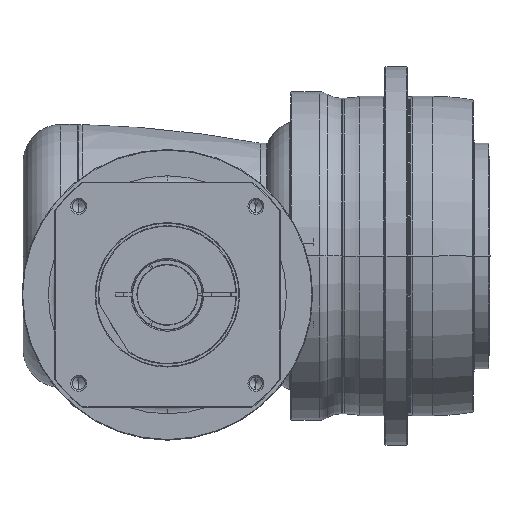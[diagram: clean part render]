
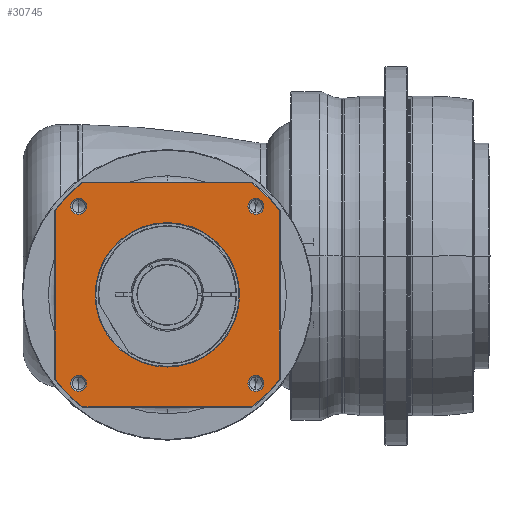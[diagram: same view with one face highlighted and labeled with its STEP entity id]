
A CAD part, front view. The second image highlights one B-rep face of the part: STEP entity #30745.
In plain terms, the highlighted planar face has unit normal (0, -1, 0) as drawn and (0, 0, 1) by its records, which use the part's own axes.
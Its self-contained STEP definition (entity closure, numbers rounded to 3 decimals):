
#29473=DIRECTION('',(1.,0.,0.));
#29474=VECTOR('',#29473,134.666);
#29475=CARTESIAN_POINT('',(-67.333,-89.5,54.));
#29476=LINE('',#29475,#29474);
#29486=CARTESIAN_POINT('',(0.,0.,54.));
#29487=DIRECTION('',(0.,0.,-1.));
#29488=DIRECTION('',(0.,-1.,0.));
#29489=AXIS2_PLACEMENT_3D('',#29486,#29487,#29488);
#29491=CARTESIAN_POINT('',(0.,0.,
54.));
#29492=DIRECTION('',(0.,0.,-1.));
#29493=DIRECTION('',(0.,1.,0.));
#29494=AXIS2_PLACEMENT_3D('',#29491,#29492,#29493);
#29496=CARTESIAN_POINT('',(0.,0.,54.));
#29497=DIRECTION('',(0.,0.,1.));
#29498=DIRECTION('',(-0.799,-0.601,0.));
#29499=AXIS2_PLACEMENT_3D('',#29496,#29497,#29498);
#29511=DIRECTION('',(0.,-1.,0.));
#29512=VECTOR('',#29511,134.666);
#29513=CARTESIAN_POINT('',(-89.5,67.333,54.));
#29514=LINE('',#29513,#29512);
#29524=CARTESIAN_POINT('',(0.,0.,54.));
#29525=DIRECTION('',(0.,0.,1.));
#29526=DIRECTION('',(-0.601,0.799,0.));
#29527=AXIS2_PLACEMENT_3D('',#29524,#29525,#29526);
#29552=DIRECTION('',(-1.,0.,0.));
#29553=VECTOR('',#29552,134.666);
#29554=CARTESIAN_POINT('',(67.333,89.5,54.));
#29555=LINE('',#29554,#29553);
#29560=CARTESIAN_POINT('',(0.,0.,54.));
#29561=DIRECTION('',(0.,0.,1.));
#29562=DIRECTION('',(0.799,0.601,0.));
#29563=AXIS2_PLACEMENT_3D('',#29560,#29561,#29562);
#29575=DIRECTION('',(0.,1.,0.));
#29576=VECTOR('',#29575,134.666);
#29577=CARTESIAN_POINT('',(89.5,-67.333,54.));
#29578=LINE('',#29577,#29576);
#29680=CARTESIAN_POINT('',(0.,0.,54.));
#29681=DIRECTION('',(0.,0.,1.));
#29682=DIRECTION('',(0.601,-0.799,0.));
#29683=AXIS2_PLACEMENT_3D('',#29680,#29681,#29682);
#29962=CARTESIAN_POINT('',(-70.711,70.711,54.));
#29963=DIRECTION('',(0.,0.,1.));
#29964=DIRECTION('',(-1.,0.,0.));
#29965=AXIS2_PLACEMENT_3D('',#29962,#29963,#29964);
#29980=CARTESIAN_POINT('',(-70.711,70.711,54.));
#29981=DIRECTION('',(0.,0.,1.));
#29982=DIRECTION('',(1.,0.,0.));
#29983=AXIS2_PLACEMENT_3D('',#29980,#29981,#29982);
#30016=CARTESIAN_POINT('',(70.711,70.711,54.));
#30017=DIRECTION('',(0.,0.,1.));
#30018=DIRECTION('',(-1.,0.,0.));
#30019=AXIS2_PLACEMENT_3D('',#30016,#30017,#30018);
#30034=CARTESIAN_POINT('',(70.711,70.711,54.));
#30035=DIRECTION('',(0.,0.,1.));
#30036=DIRECTION('',(1.,0.,0.));
#30037=AXIS2_PLACEMENT_3D('',#30034,#30035,#30036);
#30070=CARTESIAN_POINT('',(70.711,-70.711,54.));
#30071=DIRECTION('',(0.,0.,1.));
#30072=DIRECTION('',(-1.,0.,0.));
#30073=AXIS2_PLACEMENT_3D('',#30070,#30071,#30072);
#30088=CARTESIAN_POINT('',(70.711,-70.711,54.));
#30089=DIRECTION('',(0.,0.,1.));
#30090=DIRECTION('',(1.,0.,0.));
#30091=AXIS2_PLACEMENT_3D('',#30088,#30089,#30090);
#30124=CARTESIAN_POINT('',(-70.711,-70.711,54.));
#30125=DIRECTION('',(0.,0.,1.));
#30126=DIRECTION('',(-1.,0.,0.));
#30127=AXIS2_PLACEMENT_3D('',#30124,#30125,#30126);
#30142=CARTESIAN_POINT('',(-70.711,-70.711,54.));
#30143=DIRECTION('',(0.,0.,1.));
#30144=DIRECTION('',(1.,0.,0.));
#30145=AXIS2_PLACEMENT_3D('',#30142,#30143,#30144);
#30186=CARTESIAN_POINT('',(89.5,-67.333,54.));
#30187=CARTESIAN_POINT('',(89.5,67.333,54.));
#30188=VERTEX_POINT('',#30186);
#30189=VERTEX_POINT('',#30187);
#30194=CARTESIAN_POINT('',(67.333,-89.5,54.));
#30195=VERTEX_POINT('',#30194);
#30198=CARTESIAN_POINT('',(-67.333,-89.5,54.));
#30199=VERTEX_POINT('',#30198);
#30202=CARTESIAN_POINT('',(-89.5,-67.333,54.));
#30203=VERTEX_POINT('',#30202);
#30206=CARTESIAN_POINT('',(-89.5,67.333,54.));
#30207=VERTEX_POINT('',#30206);
#30210=CARTESIAN_POINT('',(-67.333,89.5,54.));
#30211=VERTEX_POINT('',#30210);
#30214=CARTESIAN_POINT('',(67.333,89.5,54.));
#30215=VERTEX_POINT('',#30214);
#30264=CARTESIAN_POINT('',(-77.111,70.711,54.));
#30265=CARTESIAN_POINT('',(-64.311,70.711,54.));
#30266=VERTEX_POINT('',#30264);
#30267=VERTEX_POINT('',#30265);
#30298=CARTESIAN_POINT('',(77.111,70.711,54.));
#30299=CARTESIAN_POINT('',(64.311,70.711,54.));
#30300=VERTEX_POINT('',#30298);
#30301=VERTEX_POINT('',#30299);
#30306=CARTESIAN_POINT('',(77.111,-70.711,54.));
#30307=CARTESIAN_POINT('',(64.311,-70.711,54.));
#30308=VERTEX_POINT('',#30306);
#30309=VERTEX_POINT('',#30307);
#30314=CARTESIAN_POINT('',(-64.311,-70.711,54.));
#30315=CARTESIAN_POINT('',(-77.111,-70.711,54.));
#30316=VERTEX_POINT('',#30314);
#30317=VERTEX_POINT('',#30315);
#30322=CARTESIAN_POINT('',(0.,-57.65,54.));
#30323=CARTESIAN_POINT('',(0.,57.65,54.));
#30324=VERTEX_POINT('',#30322);
#30325=VERTEX_POINT('',#30323);
#30693=CARTESIAN_POINT('',(0.,0.,54.));
#30694=DIRECTION('',(0.,0.,1.));
#30695=DIRECTION('',(1.,0.,0.));
#30696=AXIS2_PLACEMENT_3D('',#30693,#30694,#30695);
#30697=PLANE('',#30696);
#30699=ORIENTED_EDGE('',*,*,#30698,.F.);
#30701=ORIENTED_EDGE('',*,*,#30700,.F.);
#30703=ORIENTED_EDGE('',*,*,#30702,.F.);
#30705=ORIENTED_EDGE('',*,*,#30704,.F.);
#30707=ORIENTED_EDGE('',*,*,#30706,.F.);
#30709=ORIENTED_EDGE('',*,*,#30708,.F.);
#30711=ORIENTED_EDGE('',*,*,#30710,.F.);
#30712=ORIENTED_EDGE('',*,*,#30683,.F.);
#30713=EDGE_LOOP('',(#30699,#30701,#30703,#30705,#30707,#30709,#30711,#30712));
#30714=FACE_OUTER_BOUND('',#30713,.F.);
#30716=ORIENTED_EDGE('',*,*,#30715,.F.);
#30718=ORIENTED_EDGE('',*,*,#30717,.F.);
#30719=EDGE_LOOP('',(#30716,#30718));
#30720=FACE_BOUND('',#30719,.F.);
#30722=ORIENTED_EDGE('',*,*,#30721,.T.);
#30724=ORIENTED_EDGE('',*,*,#30723,.T.);
#30725=EDGE_LOOP('',(#30722,#30724));
#30726=FACE_BOUND('',#30725,.F.);
#30728=ORIENTED_EDGE('',*,*,#30727,.T.);
#30730=ORIENTED_EDGE('',*,*,#30729,.T.);
#30731=EDGE_LOOP('',(#30728,#30730));
#30732=FACE_BOUND('',#30731,.F.);
#30734=ORIENTED_EDGE('',*,*,#30733,.T.);
#30736=ORIENTED_EDGE('',*,*,#30735,.T.);
#30737=EDGE_LOOP('',(#30734,#30736));
#30738=FACE_BOUND('',#30737,.F.);
#30740=ORIENTED_EDGE('',*,*,#30739,.T.);
#30742=ORIENTED_EDGE('',*,*,#30741,.T.);
#30743=EDGE_LOOP('',(#30740,#30742));
#30744=FACE_BOUND('',#30743,.F.);
#30745=ADVANCED_FACE('',(#30714,#30720,#30726,#30732,#30738,#30744),#30697,.T.);
#29490=CIRCLE('',#29489,57.65);
#29495=CIRCLE('',#29494,57.65);
#29500=CIRCLE('',#29499,112.);
#29528=CIRCLE('',#29527,112.);
#29564=CIRCLE('',#29563,112.);
#29684=CIRCLE('',#29683,112.);
#29966=CIRCLE('',#29965,6.4);
#29984=CIRCLE('',#29983,6.4);
#30020=CIRCLE('',#30019,6.4);
#30038=CIRCLE('',#30037,6.4);
#30074=CIRCLE('',#30073,6.4);
#30092=CIRCLE('',#30091,6.4);
#30128=CIRCLE('',#30127,6.4);
#30146=CIRCLE('',#30145,6.4);
#30683=EDGE_CURVE('',#30199,#30195,#29476,.T.);
#30698=EDGE_CURVE('',#30203,#30199,#29500,.T.);
#30700=EDGE_CURVE('',#30207,#30203,#29514,.T.);
#30702=EDGE_CURVE('',#30211,#30207,#29528,.T.);
#30704=EDGE_CURVE('',#30215,#30211,#29555,.T.);
#30706=EDGE_CURVE('',#30189,#30215,#29564,.T.);
#30708=EDGE_CURVE('',#30188,#30189,#29578,.T.);
#30710=EDGE_CURVE('',#30195,#30188,#29684,.T.);
#30715=EDGE_CURVE('',#30324,#30325,#29490,.T.);
#30717=EDGE_CURVE('',#30325,#30324,#29495,.T.);
#30721=EDGE_CURVE('',#30266,#30267,#29966,.T.);
#30723=EDGE_CURVE('',#30267,#30266,#29984,.T.);
#30727=EDGE_CURVE('',#30301,#30300,#30020,.T.);
#30729=EDGE_CURVE('',#30300,#30301,#30038,.T.);
#30733=EDGE_CURVE('',#30309,#30308,#30074,.T.);
#30735=EDGE_CURVE('',#30308,#30309,#30092,.T.);
#30739=EDGE_CURVE('',#30317,#30316,#30128,.T.);
#30741=EDGE_CURVE('',#30316,#30317,#30146,.T.);
